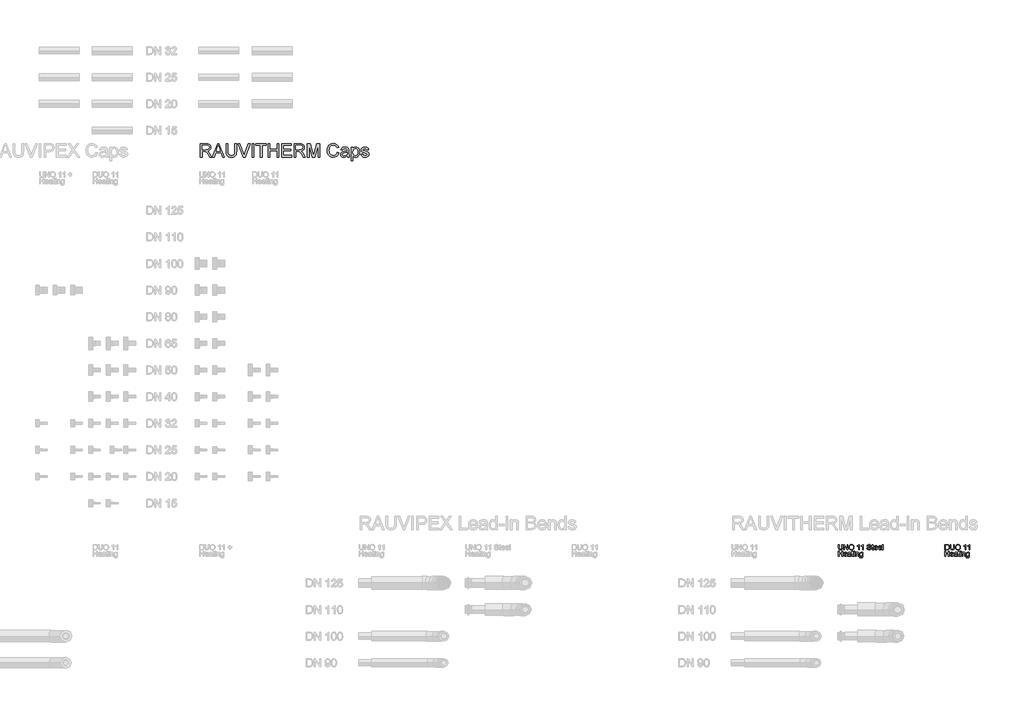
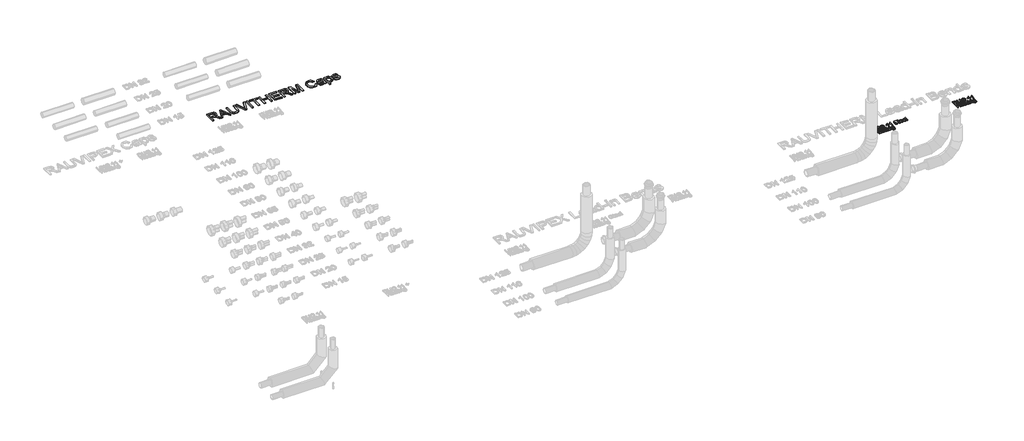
# One storey, part 43 of 44: 3 proxies.
"""IFC4 building model written with IfcOpenShell, lengths in millimetres."""

from ifc_helpers import new_model, si_unit, origin, origin_with_axes, place, context, project, spatial, polyline, outline, extrude, element, save

model = new_model("IFC4")

# Units and contexts
model_context = context("Model", 3, world=origin())
ifc_project = project(units=[si_unit("LENGTHUNIT", "METRE", prefix="MILLI")], contexts=[model_context])

# Site, building, storey
site = spatial("IfcSite", under=ifc_project)
building = spatial("IfcBuilding", under=site)
storey = spatial("IfcBuildingStorey", under=building, Name="REHAU Starting view", Elevation=0.0)

# Proxies
placement = place(None, origin())
element("IfcBuildingElementProxy", 1, Name="100", ObjectType="100", at=placement, inside=storey, context=model_context, shape_type="SweptSolid", body=[
    extrude(outline(polyline([(45010.9874089, 6121.9748178), (45010.9874089, 6222.431128), (45045.6418929, 6222.431128), (45063.5700088, 6220.9841255), (45078.3343395, 6213.7981638), (45090.2291907, 6196.6303374), (45094.1777908, 6172.7425332), (45091.5045149, 6152.4722352), (45084.6373844, 6137.8427946), (45075.4648599, 6128.7315838), (45063.4596442, 6123.6916005), (45047.3096246, 6121.9748178), (45010.9874089, 6121.9748178)]), holes=[polyline([(45023.5444477, 6134.5318566), (45045.7645202, 6134.5318566), (45061.9268025, 6136.3467411), (45071.2464797, 6141.4725636), (45078.8861625, 6153.9437632), (45081.620752, 6172.9387369), (45080.2810484, 6186.6239471), (45076.2619376, 6196.7284393), (45063.2266522, 6207.863001), (45045.4211637, 6209.8740892), (45023.5444477, 6209.8740892), (45023.5444477, 6134.5318566)])]), origin_with_axes(), (0.0, 0.0, 1.0), 20.0),
    extrude(outline(polyline([(45177.3681726, 6222.431128), (45189.9252114, 6222.431128), (45189.9252114, 6164.477451), (45186.5161716, 6140.4547567), (45174.2289129, 6125.9847316), (45163.9650053, 6121.8000739), (45150.9297199, 6120.405188), (45127.9861461, 6125.2612303), (45120.3464634, 6131.2055902), (45115.2574291, 6139.3265853), (45111.4437191, 6164.477451), (45111.4437191, 6222.431128), (45124.0007578, 6222.431128), (45124.0007578, 6164.9189094), (45126.4778299, 6145.7767829), (45134.9881668, 6136.2976902), (45149.7524975, 6132.9622268), (45162.5241341, 6134.6115644), (45171.0160768, 6139.5595772), (45175.7801487, 6149.1980855), (45177.3681726, 6164.9189094), (45177.3681726, 6222.431128)])), origin_with_axes(), (0.0, 0.0, 1.0), 20.0),
    extrude(outline(polyline([(45207.1911397, 6170.8785977), (45210.5388658, 6193.0925389), (45220.5820443, 6209.8986147), (45235.9165921, 6220.4752221), (45255.1384264, 6224.0007578), (45268.3147332, 6222.3452889), (45280.1298766, 6217.3788819), (45289.9400631, 6209.4510249), (45297.1014993, 6198.9112058), (45301.479295, 6186.2683279), (45302.9385603, 6172.0312947), (45301.402653, 6157.6041891), (45296.794931, 6144.7835015), (45289.369846, 6134.2252883), (45279.3818499, 6126.5856055), (45267.667874, 6121.9502924), (45255.06485, 6120.405188), (45241.6862081, 6122.1127736), (45229.8036197, 6127.2355304), (45220.0179586, 6135.3105402), (45212.9300988, 6145.8748848), (45207.1911397, 6170.8785977)]), holes=[polyline([(45219.7481785, 6170.7559704), (45222.2589731, 6155.0412778), (45229.7913569, 6143.0667189), (45241.1129253, 6135.4883498), (45254.9912736, 6132.9622268), (45269.071957, 6135.5128753), (45280.4119195, 6143.1648208), (45287.889121, 6155.5072617), (45290.3815215, 6172.1293965), (45286.1140904, 6192.8534156), (45273.6428907, 6206.575414), (45255.2120028, 6211.4437191), (45241.7046022, 6209.0984714), (45230.2205526, 6202.0627282), (45222.366272, 6189.5455433), (45219.7481785, 6170.7559704)])]), origin_with_axes(), (0.0, 0.0, 1.0), 20.0),
    extrude(outline(polyline([(45401.8252406, 6121.9748178), (45389.2682018, 6121.9748178), (45389.2682018, 6200.2601064), (45377.3733507, 6191.7865578), (45364.1541243, 6185.4467247), (45364.1541243, 6197.3170505), (45382.5604868, 6209.0647488), (45393.7318367, 6222.431128), (45401.8252406, 6222.431128), (45401.8252406, 6121.9748178)])), origin_with_axes(), (0.0, 0.0, 1.0), 20.0),
    extrude(outline(polyline([(45478.7371031, 6121.9748178), (45466.1800643, 6121.9748178), (45466.1800643, 6200.2601064), (45454.2852131, 6191.7865578), (45441.0659868, 6185.4467247), (45441.0659868, 6197.3170505), (45459.4723492, 6209.0647488), (45470.6436992, 6222.431128), (45478.7371031, 6222.431128), (45478.7371031, 6121.9748178)])), origin_with_axes(), (0.0, 0.0, 1.0), 20.0),
    extrude(outline(polyline([(45010.9874089, 6000.0), (45010.9874089, 6100.4563101), (45023.5444477, 6100.4563101), (45023.5444477, 6059.6459342), (45076.9118625, 6059.6459342), (45076.9118625, 6100.4563101), (45089.4689012, 6100.4563101), (45089.4689012, 6000.0), (45076.9118625, 6000.0), (45076.9118625, 6047.0888954), (45023.5444477, 6047.0888954), (45023.5444477, 6000.0), (45010.9874089, 6000.0)])), origin_with_axes(), (0.0, 0.0, 1.0), 20.0),
    extrude(outline(polyline([(45161.5247213, 6021.9748178), (45173.8365055, 6020.405188), (45169.4004617, 6011.1284304), (45162.321799, 6004.1938547), (45152.7599328, 5999.8712413), (45140.8742787, 5998.4303702), (45126.1406048, 6000.9166393), (45114.803708, 6008.3754468), (45107.5748268, 6020.3224146), (45105.1651997, 6036.2731647), (45107.5993522, 6052.7604095), (45114.9018098, 6065.0905877), (45126.0854225, 6072.7793214), (45140.1630402, 6075.3422326), (45153.8022651, 6072.7854527), (45164.7007692, 6065.1151131), (45171.846877, 6052.8094604), (45174.2289129, 6036.3467411), (45174.1553365, 6032.9622268), (45117.7222385, 6032.9622268), (45119.8958079, 6023.5628418), (45124.9449883, 6016.6527916), (45132.2321175, 6012.4037546), (45141.1195333, 6010.9874089), (45153.4313175, 6013.6116338), (45161.5247213, 6021.9748178)]), holes=[polyline([(45117.7222385, 6045.5192655), (45161.6718741, 6045.5192655), (45156.6441535, 6056.8990819), (45149.3233018, 6061.3136659), (45140.1139892, 6062.7851938), (45124.6506827, 6058.088567), (45119.7854433, 6052.5979283), (45117.7222385, 6045.5192655)])]), origin_with_axes(), (0.0, 0.0, 1.0), 20.0),
    extrude(outline(polyline([(45233.8748471, 6009.4177791), (45221.697953, 6000.9074423), (45208.2457347, 5998.4303702), (45197.7519008, 5999.9202922), (45190.0110505, 6004.3900585), (45185.2377816, 6011.1774813), (45183.646692, 6019.6203731), (45186.0501877, 6029.5531869), (45192.3654953, 6036.7636741), (45201.157875, 6040.8839524), (45212.0226566, 6042.7724133), (45233.8012707, 6047.0888954), (45233.8748471, 6049.8847985), (45230.4167563, 6059.1554248), (45216.5353424, 6062.7851938), (45203.8311508, 6060.3694354), (45197.7733606, 6051.7977849), (45185.2163218, 6053.3674148), (45190.6487126, 6065.6301479), (45201.5870706, 6072.8161096), (45218.1540231, 6075.3422326), (45233.372075, 6073.1104152), (45241.968251, 6067.5063461), (45245.8187492, 6058.9837466), (45246.4318858, 6047.9963376), (45246.4318858, 6032.3736156), (45247.069548, 6010.5582133), (45249.5711455, 6000.0), (45237.0141068, 6000.0), (45233.8748471, 6009.4177791)]), holes=[polyline([(45233.8748471, 6034.5318566), (45213.6168119, 6030.6813584), (45202.8133439, 6028.6457447), (45197.9205134, 6025.3348067), (45196.2037308, 6020.5032899), (45199.9438644, 6013.7097357), (45210.9190106, 6010.9874089), (45223.6232021, 6013.9917785), (45231.8147079, 6021.2635793), (45233.8012707, 6030.975664), (45233.8748471, 6034.5318566)])]), origin_with_axes(), (0.0, 0.0, 1.0), 20.0),
    extrude(outline(polyline([(45290.3815215, 6010.4723741), (45291.9511514, 5999.632118), (45282.5578978, 5998.4303702), (45272.0364727, 6000.5150348), (45266.7880229, 6005.9842138), (45265.267444, 6020.2335097), (45265.267444, 6061.215564), (45255.8496649, 6061.215564), (45255.8496649, 6073.7726028), (45265.267444, 6073.7726028), (45265.267444, 6091.7007187), (45277.8244828, 6099.082884), (45277.8244828, 6073.7726028), (45290.3815215, 6073.7726028), (45290.3815215, 6061.215564), (45277.8244828, 6061.215564), (45277.8244828, 6020.6013917), (45278.4866703, 6014.1266686), (45280.6326487, 6011.8335375), (45284.9123425, 6010.9874089), (45290.3815215, 6010.4723741)])), origin_with_axes(), (0.0, 0.0, 1.0), 20.0),
    extrude(outline(polyline([(45302.9385603, 6087.8992714), (45302.9385603, 6100.4563101), (45315.4955991, 6100.4563101), (45315.4955991, 6087.8992714), (45302.9385603, 6087.8992714)])), origin_with_axes(), (0.0, 0.0, 1.0), 20.0),
    extrude(outline(polyline([(45302.9385603, 6000.0), (45302.9385603, 6073.7726028), (45315.4955991, 6073.7726028), (45315.4955991, 6000.0), (45302.9385603, 6000.0)])), origin_with_axes(), (0.0, 0.0, 1.0), 20.0),
    extrude(outline(polyline([(45334.3311572, 6000.0), (45334.3311572, 6073.7726028), (45346.888196, 6073.7726028), (45346.888196, 6063.4719069), (45356.4899161, 6072.3746512), (45369.5987778, 6075.3422326), (45381.4568408, 6072.9509996), (45389.5502447, 6066.6724803), (45393.3149038, 6057.4386422), (45393.9770914, 6045.2985363), (45393.9770914, 6000.0), (45381.4200526, 6000.0), (45381.4200526, 6043.6062792), (45379.9730501, 6054.7163154), (45374.8594904, 6060.5901646), (45366.2387889, 6062.7851938), (45352.6148924, 6057.8555751), (45348.3198701, 6050.712533), (45346.888196, 6039.1426443), (45346.888196, 6000.0), (45334.3311572, 6000.0)])), origin_with_axes(), (0.0, 0.0, 1.0), 20.0),
    extrude(outline(polyline([(45408.10376, 5993.7214806), (45420.6607988, 5992.1518508), (45424.7320262, 5985.5299749), (45436.9211829, 5982.7340717), (45449.7725273, 5985.8978569), (45455.9038939, 5994.7760757), (45456.7622852, 6009.4177791), (45447.9208546, 6002.3544448), (45437.1419121, 6000.0), (45424.1955316, 6002.7407209), (45414.5416949, 6010.9628835), (45408.5360213, 6023.0171502), (45406.5341301, 6037.2541834), (45410.127111, 6056.7151409), (45420.5259087, 6070.4861903), (45436.5287755, 6075.3422326), (45447.7307822, 6072.5953804), (45456.7622852, 6064.3548237), (45456.7622852, 6073.7726028), (45469.319324, 6073.7726028), (45469.319324, 6010.0799667), (45465.8857587, 5985.6893904), (45455.0087144, 5974.3463622), (45436.6759283, 5970.1770329), (45424.9926092, 5971.6454952), (45415.7924937, 5976.0508821), (45409.8910533, 5983.4054563), (45408.10376, 5993.7214806)]), holes=[polyline([(45419.0911689, 6038.1125747), (45420.4308725, 6026.5948026), (45424.4499833, 6018.6761426), (45430.4924451, 6014.0868147), (45437.9022016, 6012.5570388), (45445.2567758, 6014.0776177), (45451.3298944, 6018.6393544), (45455.4041875, 6026.4568468), (45456.7622852, 6037.7446927), (45455.3643336, 6048.6309341), (45451.1704789, 6056.4698863), (45445.0084555, 6061.2063669), (45437.7059979, 6062.7851938), (45430.5353646, 6061.2308924), (45424.5235597, 6056.5679881), (45420.4492666, 6048.8455319), (45419.0911689, 6038.1125747)])]), origin_with_axes(), (0.0, 0.0, 1.0), 20.0),
])
element("IfcBuildingElementProxy", 2, Name="100", ObjectType="100", at=placement, inside=storey, context=model_context, shape_type="SweptSolid", body=[
    extrude(outline(polyline([(43076.9118625, 6222.431128), (43089.4689012, 6222.431128), (43089.4689012, 6164.477451), (43086.0598614, 6140.4547567), (43073.7726028, 6125.9847316), (43063.5086951, 6121.8000739), (43050.4734097, 6120.405188), (43027.529836, 6125.2612303), (43019.8901532, 6131.2055902), (43014.8011189, 6139.3265853), (43010.9874089, 6164.477451), (43010.9874089, 6222.431128), (43023.5444477, 6222.431128), (43023.5444477, 6164.9189094), (43026.0215198, 6145.7767829), (43034.5318566, 6136.2976902), (43049.2961874, 6132.9622268), (43062.067824, 6134.6115644), (43070.5597667, 6139.5595772), (43075.3238385, 6149.1980855), (43076.9118625, 6164.9189094), (43076.9118625, 6222.431128)])), origin_with_axes(), (0.0, 0.0, 1.0), 20.0),
    extrude(outline(polyline([(43111.4437191, 6121.9748178), (43111.4437191, 6222.431128), (43124.8836746, 6222.431128), (43177.3681726, 6142.8459897), (43177.3681726, 6222.431128), (43189.9252114, 6222.431128), (43189.9252114, 6121.9748178), (43176.4852558, 6121.9748178), (43124.0007578, 6201.5844816), (43124.0007578, 6121.9748178), (43111.4437191, 6121.9748178)])), origin_with_axes(), (0.0, 0.0, 1.0), 20.0),
    extrude(outline(polyline([(43207.1911397, 6170.8785977), (43210.5388658, 6193.0925389), (43220.5820443, 6209.8986147), (43235.9165921, 6220.4752221), (43255.1384264, 6224.0007578), (43268.3147332, 6222.3452889), (43280.1298766, 6217.3788819), (43289.9400631, 6209.4510249), (43297.1014993, 6198.9112058), (43301.479295, 6186.2683279), (43302.9385603, 6172.0312947), (43301.402653, 6157.6041891), (43296.794931, 6144.7835015), (43289.369846, 6134.2252883), (43279.3818499, 6126.5856055), (43267.667874, 6121.9502924), (43255.06485, 6120.405188), (43241.6862081, 6122.1127736), (43229.8036197, 6127.2355304), (43220.0179586, 6135.3105402), (43212.9300988, 6145.8748848), (43207.1911397, 6170.8785977)]), holes=[polyline([(43219.7481785, 6170.7559704), (43222.2589731, 6155.0412778), (43229.7913569, 6143.0667189), (43241.1129253, 6135.4883498), (43254.9912736, 6132.9622268), (43269.071957, 6135.5128753), (43280.4119195, 6143.1648208), (43287.889121, 6155.5072617), (43290.3815215, 6172.1293965), (43286.1140904, 6192.8534156), (43273.6428907, 6206.575414), (43255.2120028, 6211.4437191), (43241.7046022, 6209.0984714), (43230.2205526, 6202.0627282), (43222.366272, 6189.5455433), (43219.7481785, 6170.7559704)])]), origin_with_axes(), (0.0, 0.0, 1.0), 20.0),
    extrude(outline(polyline([(43401.8252406, 6121.9748178), (43389.2682018, 6121.9748178), (43389.2682018, 6200.2601064), (43377.3733507, 6191.7865578), (43364.1541243, 6185.4467247), (43364.1541243, 6197.3170505), (43382.5604868, 6209.0647488), (43393.7318367, 6222.431128), (43401.8252406, 6222.431128), (43401.8252406, 6121.9748178)])), origin_with_axes(), (0.0, 0.0, 1.0), 20.0),
    extrude(outline(polyline([(43478.7371031, 6121.9748178), (43466.1800643, 6121.9748178), (43466.1800643, 6200.2601064), (43454.2852131, 6191.7865578), (43441.0659868, 6185.4467247), (43441.0659868, 6197.3170505), (43459.4723492, 6209.0647488), (43470.6436992, 6222.431128), (43478.7371031, 6222.431128), (43478.7371031, 6121.9748178)])), origin_with_axes(), (0.0, 0.0, 1.0), 20.0),
    extrude(outline(polyline([(43547.8008163, 6156.5066745), (43560.3578551, 6156.5066745), (43564.404557, 6143.937373), (43574.2883199, 6135.9911219), (43589.3469563, 6132.9622268), (43602.4680808, 6135.2553579), (43610.9416294, 6141.5584027), (43613.7252698, 6149.9829004), (43611.6406052, 6157.8187869), (43603.1057429, 6163.5209578), (43584.8220077, 6168.3156865), (43565.140321, 6174.5083668), (43554.4594804, 6183.8525694), (43550.940076, 6196.3360318), (43555.2933463, 6210.5485396), (43568.0098006, 6220.5794553), (43586.6246295, 6224.0007578), (43606.4902572, 6220.4200398), (43619.7340091, 6209.8986147), (43624.7126787, 6194.1777908), (43612.15564, 6194.1777908), (43609.8502461, 6201.6703207), (43605.0432547, 6207.0781861), (43587.1151388, 6211.4437191), (43569.137972, 6207.127237), (43563.4971147, 6196.7039138), (43567.4947658, 6187.9973732), (43587.9980556, 6180.9830899), (43610.2181281, 6174.680045), (43622.3704967, 6164.5019765), (43626.2823086, 6150.3017315), (43621.7818855, 6135.2798833), (43608.8324393, 6124.3169999), (43589.8374656, 6120.405188), (43567.4089266, 6124.6235682), (43553.2209443, 6137.3277598), (43547.8008163, 6156.5066745)])), origin_with_axes(), (0.0, 0.0, 1.0), 20.0),
    extrude(outline(polyline([(43670.2319443, 6132.447192), (43671.8015741, 6121.6069358), (43662.4083205, 6120.405188), (43651.8868955, 6122.4898526), (43646.6384457, 6127.9590316), (43645.1178667, 6142.2083276), (43645.1178667, 6183.1903818), (43635.7000877, 6183.1903818), (43635.7000877, 6195.7474206), (43645.1178667, 6195.7474206), (43645.1178667, 6213.6755365), (43657.6749055, 6221.0577019), (43657.6749055, 6195.7474206), (43670.2319443, 6195.7474206), (43670.2319443, 6183.1903818), (43657.6749055, 6183.1903818), (43657.6749055, 6142.5762096), (43658.3370931, 6136.1014865), (43660.4830714, 6133.8083554), (43664.7627653, 6132.9622268), (43670.2319443, 6132.447192)])), origin_with_axes(), (0.0, 0.0, 1.0), 20.0),
    extrude(outline(polyline([(43734.4396152, 6143.9496357), (43746.7513993, 6142.3800058), (43742.3153556, 6133.1032482), (43735.2366928, 6126.1686726), (43725.6748266, 6121.8460591), (43713.7891725, 6120.405188), (43699.0554986, 6122.8914571), (43687.7186018, 6130.3502646), (43680.4897206, 6142.2972324), (43678.0800935, 6158.2479826), (43680.514246, 6174.7352273), (43687.8167036, 6187.0654055), (43699.0003163, 6194.7541392), (43713.077934, 6197.3170505), (43726.717159, 6194.7602706), (43737.6156631, 6187.089931), (43744.7617708, 6174.7842783), (43747.1438067, 6158.321559), (43747.0702303, 6154.9370446), (43690.6371323, 6154.9370446), (43692.8107017, 6145.5376596), (43697.8598821, 6138.6276095), (43705.1470113, 6134.3785724), (43714.0344272, 6132.9622268), (43726.3462113, 6135.5864517), (43734.4396152, 6143.9496357)]), holes=[polyline([(43690.6371323, 6167.4940834), (43734.586768, 6167.4940834), (43729.5590474, 6178.8738998), (43722.2381957, 6183.2884837), (43713.0288831, 6184.7600117), (43697.5655765, 6180.0633849), (43692.7003371, 6174.5727461), (43690.6371323, 6167.4940834)])]), origin_with_axes(), (0.0, 0.0, 1.0), 20.0),
    extrude(outline(polyline([(43811.3514776, 6143.9496357), (43823.6632617, 6142.3800058), (43819.227218, 6133.1032482), (43812.1485553, 6126.1686726), (43802.5866891, 6121.8460591), (43790.701035, 6120.405188), (43775.9673611, 6122.8914571), (43764.6304642, 6130.3502646), (43757.401583, 6142.2972324), (43754.991956, 6158.2479826), (43757.4261085, 6174.7352273), (43764.7285661, 6187.0654055), (43775.9121788, 6194.7541392), (43789.9897964, 6197.3170505), (43803.6290214, 6194.7602706), (43814.5275255, 6187.089931), (43821.6736333, 6174.7842783), (43824.0556692, 6158.321559), (43823.9820928, 6154.9370446), (43767.5489947, 6154.9370446), (43769.7225642, 6145.5376596), (43774.7717446, 6138.6276095), (43782.0588738, 6134.3785724), (43790.9462896, 6132.9622268), (43803.2580737, 6135.5864517), (43811.3514776, 6143.9496357)]), holes=[polyline([(43767.5489947, 6167.4940834), (43811.4986304, 6167.4940834), (43806.4709098, 6178.8738998), (43799.1500581, 6183.2884837), (43789.9407455, 6184.7600117), (43774.477439, 6180.0633849), (43769.6121996, 6174.5727461), (43767.5489947, 6167.4940834)])]), origin_with_axes(), (0.0, 0.0, 1.0), 20.0),
    extrude(outline(polyline([(43836.612708, 6121.9748178), (43836.612708, 6222.431128), (43849.1697467, 6222.431128), (43849.1697467, 6121.9748178), (43836.612708, 6121.9748178)])), origin_with_axes(), (0.0, 0.0, 1.0), 20.0),
    extrude(outline(polyline([(43010.9874089, 6000.0), (43010.9874089, 6100.4563101), (43023.5444477, 6100.4563101), (43023.5444477, 6059.6459342), (43076.9118625, 6059.6459342), (43076.9118625, 6100.4563101), (43089.4689012, 6100.4563101), (43089.4689012, 6000.0), (43076.9118625, 6000.0), (43076.9118625, 6047.0888954), (43023.5444477, 6047.0888954), (43023.5444477, 6000.0), (43010.9874089, 6000.0)])), origin_with_axes(), (0.0, 0.0, 1.0), 20.0),
    extrude(outline(polyline([(43161.5247213, 6021.9748178), (43173.8365055, 6020.405188), (43169.4004617, 6011.1284304), (43162.321799, 6004.1938547), (43152.7599328, 5999.8712413), (43140.8742787, 5998.4303702), (43126.1406048, 6000.9166393), (43114.803708, 6008.3754468), (43107.5748268, 6020.3224146), (43105.1651997, 6036.2731647), (43107.5993522, 6052.7604095), (43114.9018098, 6065.0905877), (43126.0854225, 6072.7793214), (43140.1630402, 6075.3422326), (43153.8022651, 6072.7854527), (43164.7007692, 6065.1151131), (43171.846877, 6052.8094604), (43174.2289129, 6036.3467411), (43174.1553365, 6032.9622268), (43117.7222385, 6032.9622268), (43119.8958079, 6023.5628418), (43124.9449883, 6016.6527916), (43132.2321175, 6012.4037546), (43141.1195333, 6010.9874089), (43153.4313175, 6013.6116338), (43161.5247213, 6021.9748178)]), holes=[polyline([(43117.7222385, 6045.5192655), (43161.6718741, 6045.5192655), (43156.6441535, 6056.8990819), (43149.3233018, 6061.3136659), (43140.1139892, 6062.7851938), (43124.6506827, 6058.088567), (43119.7854433, 6052.5979283), (43117.7222385, 6045.5192655)])]), origin_with_axes(), (0.0, 0.0, 1.0), 20.0),
    extrude(outline(polyline([(43233.8748471, 6009.4177791), (43221.697953, 6000.9074423), (43208.2457347, 5998.4303702), (43197.7519008, 5999.9202922), (43190.0110505, 6004.3900585), (43185.2377816, 6011.1774813), (43183.646692, 6019.6203731), (43186.0501877, 6029.5531869), (43192.3654953, 6036.7636741), (43201.157875, 6040.8839524), (43212.0226566, 6042.7724133), (43233.8012707, 6047.0888954), (43233.8748471, 6049.8847985), (43230.4167563, 6059.1554248), (43216.5353424, 6062.7851938), (43203.8311508, 6060.3694354), (43197.7733606, 6051.7977849), (43185.2163218, 6053.3674148), (43190.6487126, 6065.6301479), (43201.5870706, 6072.8161096), (43218.1540231, 6075.3422326), (43233.372075, 6073.1104152), (43241.968251, 6067.5063461), (43245.8187492, 6058.9837466), (43246.4318858, 6047.9963376), (43246.4318858, 6032.3736156), (43247.069548, 6010.5582133), (43249.5711455, 6000.0), (43237.0141068, 6000.0), (43233.8748471, 6009.4177791)]), holes=[polyline([(43233.8748471, 6034.5318566), (43213.6168119, 6030.6813584), (43202.8133439, 6028.6457447), (43197.9205134, 6025.3348067), (43196.2037308, 6020.5032899), (43199.9438644, 6013.7097357), (43210.9190106, 6010.9874089), (43223.6232021, 6013.9917785), (43231.8147079, 6021.2635793), (43233.8012707, 6030.975664), (43233.8748471, 6034.5318566)])]), origin_with_axes(), (0.0, 0.0, 1.0), 20.0),
    extrude(outline(polyline([(43290.3815215, 6010.4723741), (43291.9511514, 5999.632118), (43282.5578978, 5998.4303702), (43272.0364727, 6000.5150348), (43266.7880229, 6005.9842138), (43265.267444, 6020.2335097), (43265.267444, 6061.215564), (43255.8496649, 6061.215564), (43255.8496649, 6073.7726028), (43265.267444, 6073.7726028), (43265.267444, 6091.7007187), (43277.8244828, 6099.082884), (43277.8244828, 6073.7726028), (43290.3815215, 6073.7726028), (43290.3815215, 6061.215564), (43277.8244828, 6061.215564), (43277.8244828, 6020.6013917), (43278.4866703, 6014.1266686), (43280.6326487, 6011.8335375), (43284.9123425, 6010.9874089), (43290.3815215, 6010.4723741)])), origin_with_axes(), (0.0, 0.0, 1.0), 20.0),
    extrude(outline(polyline([(43302.9385603, 6087.8992714), (43302.9385603, 6100.4563101), (43315.4955991, 6100.4563101), (43315.4955991, 6087.8992714), (43302.9385603, 6087.8992714)])), origin_with_axes(), (0.0, 0.0, 1.0), 20.0),
    extrude(outline(polyline([(43302.9385603, 6000.0), (43302.9385603, 6073.7726028), (43315.4955991, 6073.7726028), (43315.4955991, 6000.0), (43302.9385603, 6000.0)])), origin_with_axes(), (0.0, 0.0, 1.0), 20.0),
    extrude(outline(polyline([(43334.3311572, 6000.0), (43334.3311572, 6073.7726028), (43346.888196, 6073.7726028), (43346.888196, 6063.4719069), (43356.4899161, 6072.3746512), (43369.5987778, 6075.3422326), (43381.4568408, 6072.9509996), (43389.5502447, 6066.6724803), (43393.3149038, 6057.4386422), (43393.9770914, 6045.2985363), (43393.9770914, 6000.0), (43381.4200526, 6000.0), (43381.4200526, 6043.6062792), (43379.9730501, 6054.7163154), (43374.8594904, 6060.5901646), (43366.2387889, 6062.7851938), (43352.6148924, 6057.8555751), (43348.3198701, 6050.712533), (43346.888196, 6039.1426443), (43346.888196, 6000.0), (43334.3311572, 6000.0)])), origin_with_axes(), (0.0, 0.0, 1.0), 20.0),
    extrude(outline(polyline([(43408.10376, 5993.7214806), (43420.6607988, 5992.1518508), (43424.7320262, 5985.5299749), (43436.9211829, 5982.7340717), (43449.7725273, 5985.8978569), (43455.9038939, 5994.7760757), (43456.7622852, 6009.4177791), (43447.9208546, 6002.3544448), (43437.1419121, 6000.0), (43424.1955316, 6002.7407209), (43414.5416949, 6010.9628835), (43408.5360213, 6023.0171502), (43406.5341301, 6037.2541834), (43410.127111, 6056.7151409), (43420.5259087, 6070.4861903), (43436.5287755, 6075.3422326), (43447.7307822, 6072.5953804), (43456.7622852, 6064.3548237), (43456.7622852, 6073.7726028), (43469.319324, 6073.7726028), (43469.319324, 6010.0799667), (43465.8857587, 5985.6893904), (43455.0087144, 5974.3463622), (43436.6759283, 5970.1770329), (43424.9926092, 5971.6454952), (43415.7924937, 5976.0508821), (43409.8910533, 5983.4054563), (43408.10376, 5993.7214806)]), holes=[polyline([(43419.0911689, 6038.1125747), (43420.4308725, 6026.5948026), (43424.4499833, 6018.6761426), (43430.4924451, 6014.0868147), (43437.9022016, 6012.5570388), (43445.2567758, 6014.0776177), (43451.3298944, 6018.6393544), (43455.4041875, 6026.4568468), (43456.7622852, 6037.7446927), (43455.3643336, 6048.6309341), (43451.1704789, 6056.4698863), (43445.0084555, 6061.2063669), (43437.7059979, 6062.7851938), (43430.5353646, 6061.2308924), (43424.5235597, 6056.5679881), (43420.4492666, 6048.8455319), (43419.0911689, 6038.1125747)])]), origin_with_axes(), (0.0, 0.0, 1.0), 20.0),
])
element("IfcBuildingElementProxy", 3, Name="250", ObjectType="250", at=placement, inside=storey, context=model_context, shape_type="SweptSolid", body=[
    extrude(outline(polyline([(31027.4685223, 13500.0), (31027.4685223, 13751.1407754), (31135.6871426, 13751.1407754), (31164.7728128, 13749.4469854), (31185.9336917, 13744.3656153), (31201.4000639, 13734.9846244), (31213.402214, 13720.3919719), (31221.1047433, 13702.2967763), (31223.6722531, 13682.4081559), (31219.4186175, 13657.6680918), (31206.6577108, 13637.1586705), (31185.0063225, 13622.121494), (31154.0812423, 13613.7981638), (31171.9235191, 13600.370471), (31197.3686904, 13568.0581691), (31239.2459242, 13500.0), (31202.764293, 13500.0), (31170.0841091, 13552.0553023), (31146.4783477, 13586.5135825), (31129.8930011, 13602.7923608), (31114.9631235, 13608.7704432), (31096.7529647, 13609.8740892), (31058.8611192, 13609.8740892), (31058.8611192, 13500.0), (31027.4685223, 13500.0)]), holes=[polyline([(31058.8611192, 13641.2666861), (31129.1265803, 13641.2666861), (31164.964418, 13645.7119269), (31176.7519703, 13651.4907399), (31185.3205551, 13659.9366974), (31190.5398809, 13670.153087), (31192.2796561, 13681.2431963), (31188.961054, 13696.5562843), (31179.0052475, 13708.8956596), (31161.8757421, 13717.0350487), (31137.0360432, 13719.7481785), (31058.8611192, 13719.7481785), (31058.8611192, 13641.2666861)])]), origin_with_axes(), (0.0, 0.0, 1.0), 20.0),
    extrude(outline(polyline([(31249.3626791, 13500.0), (31349.6105227, 13751.1407754), (31376.3432811, 13751.1407754), (31476.5911248, 13500.0), (31443.4204315, 13500.0), (31414.6643222, 13578.4814923), (31311.2281679, 13578.4814923), (31282.5333723, 13500.0), (31249.3626791, 13500.0)]), holes=[polyline([(31322.7551371, 13609.8740892), (31403.1986667, 13609.8740892), (31380.573924, 13671.6169507), (31362.9769019, 13719.7481785), (31347.3419171, 13677.0125533), (31322.7551371, 13609.8740892)])]), origin_with_axes(), (0.0, 0.0, 1.0), 20.0),
    extrude(outline(polyline([(31674.9408338, 13751.1407754), (31706.3334307, 13751.1407754), (31706.3334307, 13606.2565829), (31704.2027809, 13572.3271331), (31697.8108312, 13546.1998472), (31685.8699948, 13526.0429796), (31667.0926846, 13510.0247844), (31641.4329154, 13499.5631401), (31608.844702, 13496.0759254), (31576.96926, 13499.1109518), (31551.4857676, 13508.2160312), (31532.3865607, 13523.076931), (31519.663975, 13543.3794186), (31512.5132687, 13570.6103504), (31510.1297, 13606.2565829), (31510.1297, 13751.1407754), (31541.5222969, 13751.1407754), (31541.5222969, 13607.3602289), (31543.070467, 13579.1482784), (31547.7149772, 13559.5049127), (31556.1302778, 13545.9009431), (31568.9908192, 13535.8071809), (31585.7601068, 13529.5531869), (31605.9016461, 13527.4685223), (31637.8307376, 13531.5918663), (31659.0605944, 13543.9618984), (31666.0081991, 13554.1093101), (31670.970774, 13568.0581691), (31674.9408338, 13607.3602289), (31674.9408338, 13751.1407754)])), origin_with_axes(), (0.0, 0.0, 1.0), 20.0),
    extrude(outline(polyline([(31835.460011, 13500.0), (31735.5187357, 13751.1407754), (31769.1186246, 13751.1407754), (31836.011834, 13570.2041474), (31849.5621542, 13529.4305596), (31862.9285334, 13570.2041474), (31930.0056838, 13751.1407754), (31963.6055727, 13751.1407754), (31867.8949403, 13500.0), (31835.460011, 13500.0)])), origin_with_axes(), (0.0, 0.0, 1.0), 20.0),
    extrude(outline(polyline([(31996.7149523, 13500.0), (31996.7149523, 13751.1407754), (32028.1075492, 13751.1407754), (32028.1075492, 13500.0), (31996.7149523, 13500.0)])), origin_with_axes(), (0.0, 0.0, 1.0), 20.0),
    extrude(outline(polyline([(32153.6779369, 13500.0), (32153.6779369, 13719.7481785), (32071.27237, 13719.7481785), (32071.27237, 13751.1407754), (32267.4761007, 13751.1407754), (32267.4761007, 13719.7481785), (32185.0705338, 13719.7481785), (32185.0705338, 13500.0), (32153.6779369, 13500.0)])), origin_with_axes(), (0.0, 0.0, 1.0), 20.0),
    extrude(outline(polyline([(32302.7927723, 13500.0), (32302.7927723, 13751.1407754), (32334.1853692, 13751.1407754), (32334.1853692, 13649.1148354), (32467.6039061, 13649.1148354), (32467.6039061, 13751.1407754), (32498.996503, 13751.1407754), (32498.996503, 13500.0), (32467.6039061, 13500.0), (32467.6039061, 13617.7222385), (32334.1853692, 13617.7222385), (32334.1853692, 13500.0), (32302.7927723, 13500.0)])), origin_with_axes(), (0.0, 0.0, 1.0), 20.0),
    extrude(outline(polyline([(32553.9335476, 13500.0), (32553.9335476, 13751.1407754), (32734.4409799, 13751.1407754), (32734.4409799, 13719.7481785), (32585.3261445, 13719.7481785), (32585.3261445, 13645.1907608), (32726.5928307, 13645.1907608), (32726.5928307, 13613.7981638), (32585.3261445, 13613.7981638), (32585.3261445, 13531.3925969), (32738.3650545, 13531.3925969), (32738.3650545, 13500.0), (32553.9335476, 13500.0)])), origin_with_axes(), (0.0, 0.0, 1.0), 20.0),
    extrude(outline(polyline([(32785.4539499, 13500.0), (32785.4539499, 13751.1407754), (32893.6725702, 13751.1407754), (32922.7582404, 13749.4469854), (32943.9191193, 13744.3656153), (32959.3854916, 13734.9846244), (32971.3876417, 13720.3919719), (32979.0901709, 13702.2967763), (32981.6576807, 13682.4081559), (32977.4040451, 13657.6680918), (32964.6431384, 13637.1586705), (32942.9917502, 13622.121494), (32912.0666699, 13613.7981638), (32929.9089467, 13600.370471), (32955.354118, 13568.0581691), (32997.2313518, 13500.0), (32960.7497206, 13500.0), (32928.0695367, 13552.0553023), (32904.4637754, 13586.5135825), (32887.8784287, 13602.7923608), (32872.9485511, 13608.7704432), (32854.7383923, 13609.8740892), (32816.8465468, 13609.8740892), (32816.8465468, 13500.0), (32785.4539499, 13500.0)]), holes=[polyline([(32816.8465468, 13641.2666861), (32887.1120079, 13641.2666861), (32922.9498456, 13645.7119269), (32934.7373979, 13651.4907399), (32943.3059827, 13659.9366974), (32948.5253085, 13670.153087), (32950.2650838, 13681.2431963), (32946.9464816, 13696.5562843), (32936.9906751, 13708.8956596), (32919.8611697, 13717.0350487), (32895.0214708, 13719.7481785), (32816.8465468, 13719.7481785), (32816.8465468, 13641.2666861)])]), origin_with_axes(), (0.0, 0.0, 1.0), 20.0),
    extrude(outline(polyline([(33036.5947253, 13500.0), (33036.5947253, 13751.1407754), (33090.6120649, 13751.1407754), (33141.9929169, 13574.128222), (33152.3549264, 13537.1560815), (33163.5753273, 13577.1939053), (33214.097788, 13751.1407754), (33268.1151276, 13751.1407754), (33268.1151276, 13500.0), (33236.7225307, 13500.0), (33236.7225307, 13719.7481785), (33173.6307685, 13500.0), (33131.0790844, 13500.0), (33067.9873222, 13719.7481785), (33067.9873222, 13500.0), (33036.5947253, 13500.0)])), origin_with_axes(), (0.0, 0.0, 1.0), 20.0),
    extrude(outline(polyline([(33597.7373953, 13589.2726975), (33629.1299922, 13581.1792936), (33614.6446386, 13544.5980277), (33591.912597, 13517.8729336), (33562.0528417, 13501.5251774), (33526.1843472, 13496.0759254), (33489.7716939, 13500.1992694), (33460.8546362, 13512.5693015), (33438.689746, 13532.756826), (33422.5335951, 13560.3326472), (33412.6697591, 13592.752248), (33409.3818137, 13627.4711113), (33413.0989547, 13664.0906983), (33424.2503777, 13695.7132214), (33442.2536029, 13721.3346696), (33466.5261503, 13739.9510314), (33495.3129165, 13751.2863953), (33526.8587975, 13755.06485), (33561.2787567, 13750.1750851), (33589.7359619, 13735.5057906), (33611.3413649, 13711.9613429), (33625.2059176, 13680.4461186), (33593.8133207, 13672.9658514), (33582.930145, 13695.8588414), (33568.061581, 13711.5628041), (33549.0236877, 13720.6448908), (33525.6325242, 13723.6722531), (33498.6698397, 13720.3153299), (33476.5202779, 13710.2445602), (33459.7126692, 13694.5176049), (33448.7758441, 13674.1921247), (33442.774769, 13651.2148284), (33440.7744107, 13627.532425), (33443.142651, 13598.531061), (33450.247372, 13573.4537717), (33462.3568211, 13553.258583), (33479.7392453, 13538.903521), (33500.5782275, 13530.327272), (33523.0573503, 13527.4685223), (33549.2612782, 13531.3619401), (33571.0966075, 13543.0421934), (33587.5823194, 13562.386655), (33597.7373953, 13589.2726975)])), origin_with_axes(), (0.0, 0.0, 1.0), 20.0),
    extrude(outline(polyline([(33786.0929768, 13523.5444477), (33771.0941213, 13510.6839063), (33755.6507417, 13502.2686056), (33739.4102845, 13497.6240954), (33722.020196, 13496.0759254), (33695.7856112, 13499.8007306), (33676.4334854, 13510.9751462), (33664.5003132, 13527.9437032), (33660.5225891, 13549.0509327), (33662.0247739, 13562.0647583), (33666.5313284, 13573.8829674), (33682.3195973, 13591.9091851), (33704.3005465, 13602.209881), (33731.4625005, 13606.9310333), (33785.9090358, 13617.7222385), (33786.0929768, 13624.7119964), (33783.9316701, 13638.722169), (33777.4477499, 13647.8885621), (33762.9470679, 13654.694379), (33742.744215, 13656.9629846), (33724.043547, 13655.4531356), (33710.9837361, 13650.9235885), (33702.0779262, 13642.5466089), (33695.8392607, 13629.4944623), (33664.4466637, 13633.4185369), (33669.8959158, 13650.5863634), (33678.0276407, 13664.0753698), (33689.6005952, 13674.3913941), (33705.3735357, 13682.0402739), (33724.6643478, 13686.7767546), (33746.790917, 13688.3555815), (33768.0131096, 13686.9606956), (33784.8360467, 13682.7760379), (33797.5203113, 13676.483723), (33806.3264865, 13668.7658653), (33815.9527321, 13647.4593664), (33817.4855737, 13619.9908441), (33817.4855737, 13580.9340389), (33819.079729, 13526.3955332), (33825.333723, 13500.0), (33793.941126, 13500.0), (33786.0929768, 13523.5444477)]), holes=[polyline([(33786.0929768, 13586.3296415), (33735.4478888, 13576.703396), (33708.439219, 13571.6143617), (33696.2071427, 13563.3370168), (33691.915186, 13551.2582247), (33694.2527696, 13541.923219), (33701.2655201, 13534.2743392), (33712.8001535, 13529.1699765), (33728.7033856, 13527.4685223), (33745.5646437, 13529.3462533), (33760.4638645, 13534.9794464), (33772.5426566, 13543.2797839), (33780.9426289, 13553.1589483), (33784.6674341, 13563.3370168), (33785.9090358, 13577.43916), (33786.0929768, 13586.3296415)])]), origin_with_axes(), (0.0, 0.0, 1.0), 20.0),
    extrude(outline(polyline([(33860.6503945, 13429.3666569), (33860.6503945, 13684.4315069), (33892.0429914, 13684.4315069), (33892.0429914, 13653.6520467), (33902.2823736, 13668.8348432), (33913.7480291, 13679.6796978), (33927.1144083, 13686.1866106), (33943.0559614, 13688.3555815), (33964.2858182, 13685.3205551), (33982.8485306, 13676.2154757), (33997.9623492, 13661.5921664), (34008.8455249, 13642.0024501), (34015.4214155, 13618.8718697), (34017.6133791, 13593.6259678), (34015.1378398, 13566.7782463), (34007.7112221, 13542.7662819), (33995.5711162, 13522.8086837), (33978.9551128, 13508.1240607), (33959.602987, 13499.0879592), (33939.2545141, 13496.0759254), (33924.82281, 13498.0916121), (33911.939276, 13504.1386724), (33892.0429914, 13524.5254663), (33892.0429914, 13429.3666569), (33860.6503945, 13429.3666569)]), holes=[polyline([(33892.0429914, 13590.7442255), (33895.4382357, 13562.6012528), (33905.6239684, 13542.9195661), (33920.6534807, 13531.3312833), (33938.5800638, 13527.4685223), (33956.7978868, 13531.469239), (33972.2106095, 13543.4713891), (33982.718239, 13563.8735114), (33986.2207822, 13593.0741448), (33982.8025453, 13621.0638332), (33972.5478347, 13641.0214315), (33957.541315, 13652.9775963), (33939.8676508, 13656.9629846), (33922.1250087, 13652.7246775), (33906.5436734, 13640.009756), (33895.6681619, 13619.2167591), (33892.0429914, 13590.7442255)])]), origin_with_axes(), (0.0, 0.0, 1.0), 20.0),
    extrude(outline(polyline([(34041.1578268, 13554.9370446), (34072.5504237, 13558.8611192), (34077.5015022, 13545.4334264), (34087.0817625, 13535.5619262), (34101.3525183, 13529.4918733), (34120.3750831, 13527.4685223), (34139.1677217, 13529.3232607), (34152.3808167, 13534.8874759), (34160.1983091, 13542.9502229), (34162.8041399, 13552.300557), (34160.1829807, 13560.3019904), (34152.319503, 13566.4027001), (34120.0072011, 13575.3544953), (34072.7343647, 13590.7135686), (34060.7705357, 13598.4314263), (34052.1023162, 13608.6478159), (34046.8370051, 13620.7112797), (34045.0819014, 13633.9703599), (34050.7227587, 13657.3615234), (34066.1124888, 13675.234457), (34086.070087, 13684.5234774), (34113.0787569, 13688.3555815), (34133.511536, 13686.8150757), (34151.2771707, 13682.1935581), (34165.5632548, 13674.9432171), (34175.5573824, 13665.516241), (34182.1792583, 13653.2151868), (34186.3485876, 13637.3426115), (34154.9559906, 13633.4185369), (34150.993595, 13643.2977013), (34143.15311, 13650.7396475), (34131.3578935, 13655.4071503), (34115.5313035, 13656.9629846), (34097.5050857, 13655.4761282), (34085.4876072, 13651.015559), (34078.7277756, 13644.5776241), (34076.4744983, 13637.1586705), (34080.2146319, 13628.0229343), (34091.9255421, 13621.0944901), (34118.9648688, 13614.4113005), (34165.0420887, 13599.634707), (34177.2128513, 13592.568307), (34186.4405581, 13582.8960762), (34192.2576921, 13570.5873578), (34194.1967368, 13555.6114949), (34191.9204669, 13540.1297943), (34185.0916574, 13525.5677987), (34173.9708913, 13513.067475), (34158.8187516, 13503.7707905), (34140.5166223, 13497.9996417), (34119.9458874, 13496.0759254), (34088.2927074, 13499.7854022), (34065.1927838, 13510.9138325), (34049.7723968, 13529.3385891), (34041.1578268, 13554.9370446)])), origin_with_axes(), (0.0, 0.0, 1.0), 20.0),
])

save(model, "model.ifc")
